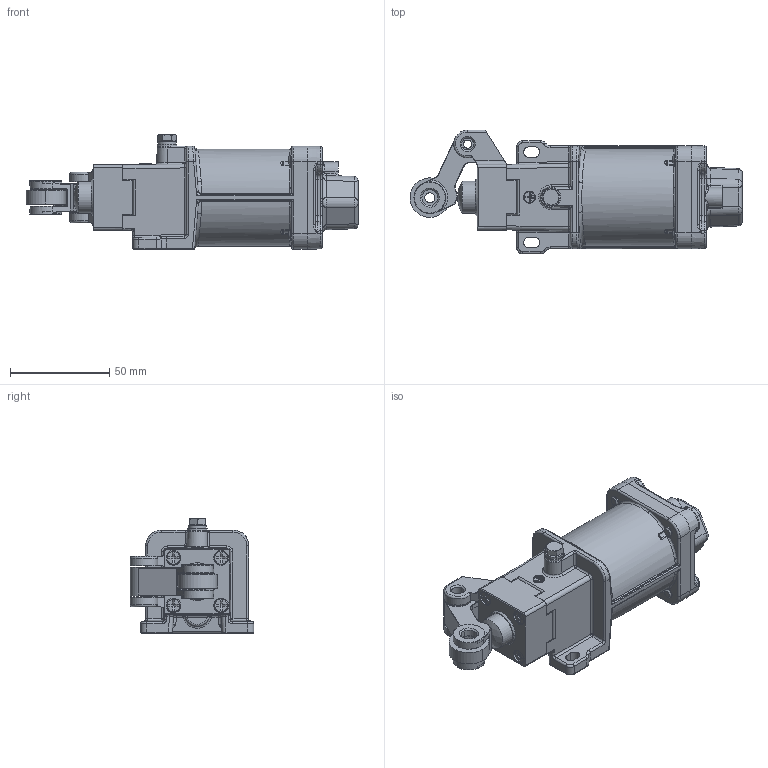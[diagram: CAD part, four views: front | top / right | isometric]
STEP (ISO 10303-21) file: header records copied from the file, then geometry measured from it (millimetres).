
FILE_DESCRIPTION((''),'2;1');
FILE_NAME('E:\PDM_GORELTEX\Позиции для склада\ДВГ-КВ\Метрика\ДВГ-КВ-E32К1_М20х1,5.stp','2019-09-03T13:23:56',('D.V.Novikov'),(''),'Autodesk Inventor 2012','Autodesk Inventor 2012','');
FILE_SCHEMA(('AUTOMOTIVE_DESIGN { 1 0 10303 214 1 1 1 1 }'));
Length unit declared in the file: millimetre
Products named in the file (1): ДВГ-КВ-E32К1_М20х1,5_Внешний контур_1
Bounding box: 167.34 x 62.3 x 57.7 mm (x, y, z)
Surface area: 41153.7 mm2 (no closed solid volume)
Topology: 0 solids, 35 shells, 751 faces, 2267 edges, 1436 vertices
Faces by surface type: cylinder 255, plane 224, bspline 152, torus 74, cone 30, sphere 16
Full cylindrical faces by diameter (mm): 4.988 x4, 5.4 x1, 6 x1, 7 x1, 9.5 x4, 10 x1, 16 x1, 18.4 x1
Entity records: 37483 total; most frequent: CARTESIAN_POINT 17765, DIRECTION 3785, ORIENTED_EDGE 3660, EDGE_CURVE 2208, AXIS2_PLACEMENT_3D 1441, VERTEX_POINT 1431, VECTOR 903, LINE 903
